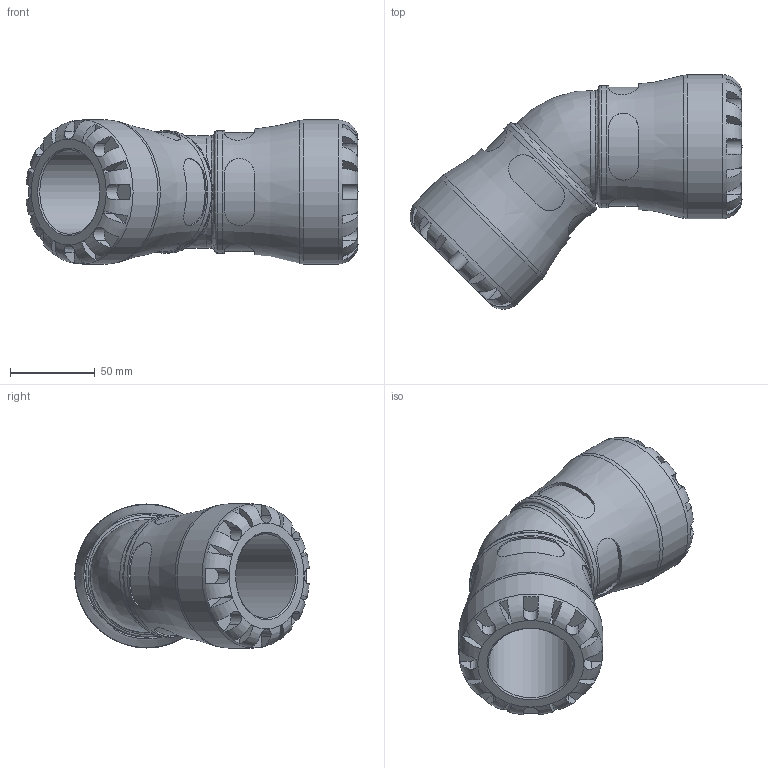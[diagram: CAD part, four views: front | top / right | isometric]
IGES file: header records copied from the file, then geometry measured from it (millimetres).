
Global section: file name: 100600050_190600050.ipt; native system: Autodesk Inventor 2015; preprocessor: unknown; author: KIM; date: 20170122.114541; units: millimetre
Bounding box: 195.91 x 138.41 x 85 mm (x, y, z)
Volume: 548730.4 mm3; surface area: 91407.2 mm2
Topology: 1 solids, 1 shells, 196 faces, 516 edges, 328 vertices
Faces by surface type: plane 116, revolution 49, cylinder 30, bspline 1
Full cylindrical faces by diameter (mm): 72.25 x2, 85 x2
